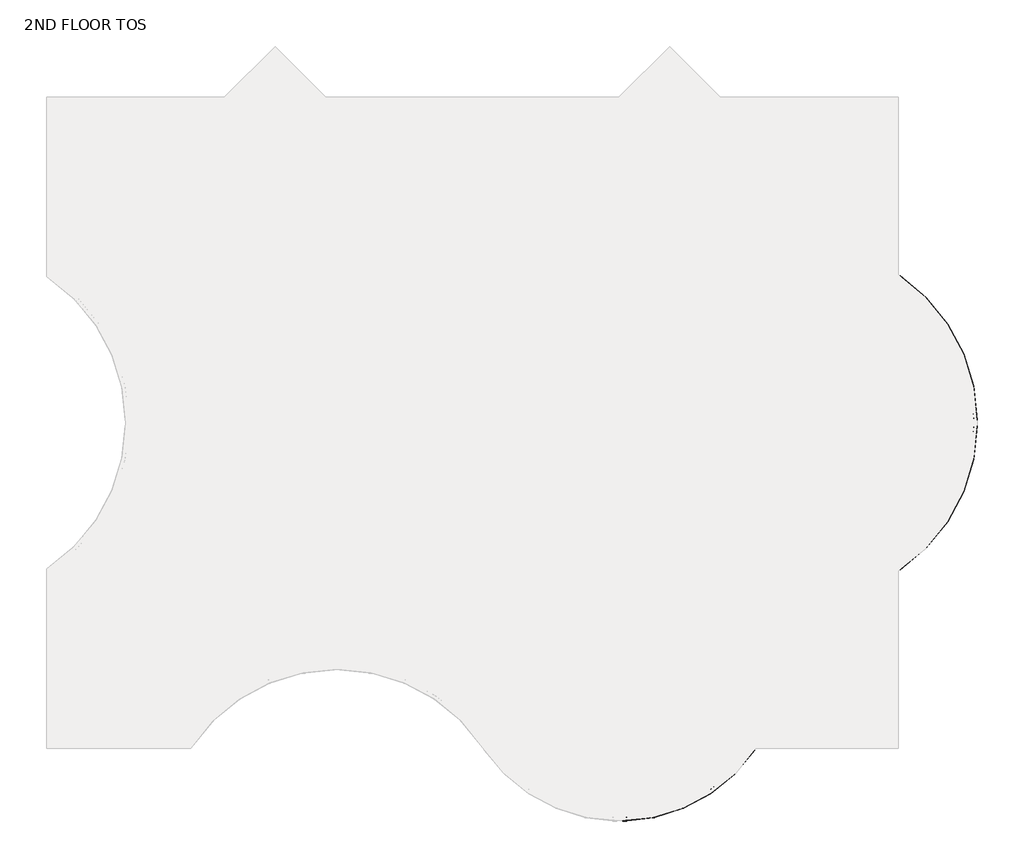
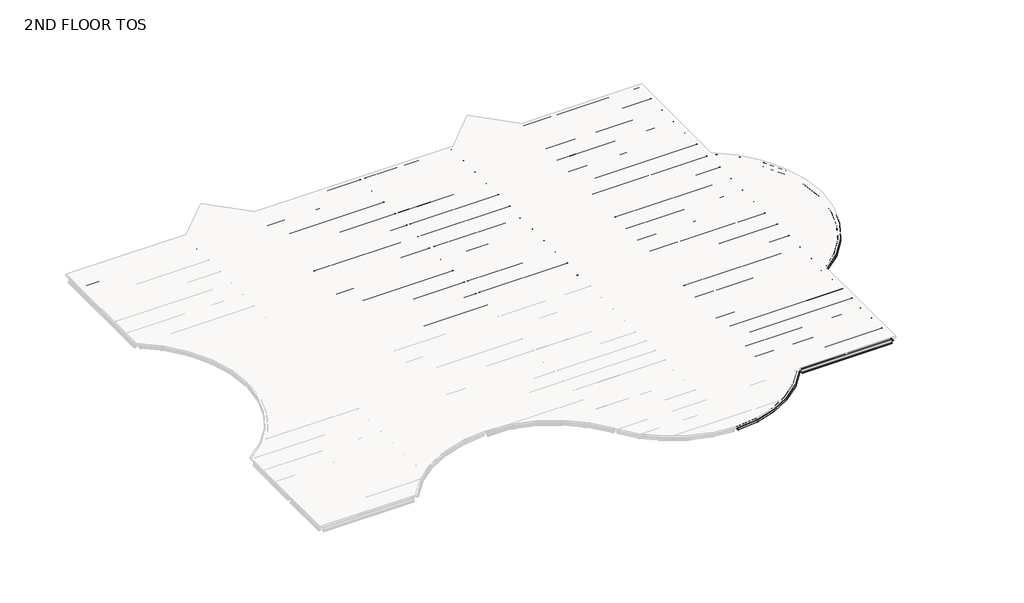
# One storey, part 2 of 2: 110 beams.
"""IFC4 building model written with IfcOpenShell, lengths in millimetres."""

from ifc_helpers import new_model, si_unit, origin, place, context, project, spatial, transform, mapped, element, save
from components import m_hss_square_hss203_2x203_2x9_5_28e91a4e, m_hss_square_hss203_2x203_2x9_5_f31329aa, m_hss_square_hss203_2x203_2x9_5_63507dff, ub_universal_beams_ub254x102x28_7812688d, ub_universal_beams_ub254x102x28_4a38c177, ub_universal_beams_ub305x165x40_c4d0385b, ub_universal_beams_ub305x165x40_19965e16, ub_universal_beams_ub305x165x40_d3abc31d, ub_universal_beams_ub305x165x40_0c73730f, ub_universal_beams_ub305x165x40_2a963f0c, ub_universal_beams_ub305x165x40_9ce7f2ee, ub_universal_beams_ub305x165x40_d184adfd, ub_universal_beams_ub305x165x40_bc7dc938, ub_universal_beams_ub305x165x40_b4233d25, ub_universal_beams_ub356x171x51_c708c058, ub_universal_beams_ub356x171x51_ef72dcdd, ub_universal_beams_ub356x171x51_10b3c54f, ub_universal_beams_ub356x171x51_4c9fd821, ub_universal_beams_ub356x171x51_d1a87c3c, ub_universal_beams_ub356x171x51_fa75724b, ub_universal_beams_ub356x171x51_68db896e, ub_universal_beams_ub356x171x51_c634c4a6, ub_universal_beams_ub356x171x51_995f1560, ub_universal_beams_ub356x171x51_dfc36663, ub_universal_beams_ub356x171x51_11d6b780, ub_universal_beams_ub356x171x51_76b2d20b, ub_universal_beams_ub356x171x51_145ecd4b, ub_universal_beams_ub356x171x51_c7dff8d2, ub_universal_beams_ub356x171x51_8a345439, ub_universal_beams_ub356x171x51_6da510e9, ub_universal_beams_ub356x171x51_e97f8d2e, ub_universal_beams_ub356x171x51_a38b99de, ub_universal_beams_ub356x171x51_d8f4cdde, ub_universal_beams_ub356x171x51_475301e6, ub_universal_beams_ub356x171x51_c03c70fb, ub_universal_beams_ub356x171x51_741bae58

model = new_model("IFC4")

# Units and contexts
model_context = context("Model", 3, world=origin())
ifc_project = project(units=[si_unit("LENGTHUNIT", "METRE", prefix="MILLI")], contexts=[model_context])

# Site, building, storey
site = spatial("IfcSite", under=ifc_project)
building = spatial("IfcBuilding", under=site)
storey = spatial("IfcBuildingStorey", under=building, Name="2ND FLOOR TOS", Elevation=8991.6)

# Beams
placement = place(None, origin())
m_hss_square_hss203_2x203_2x9_5_shape = m_hss_square_hss203_2x203_2x9_5_28e91a4e(model_context)
element("IfcBeam", 1, ObjectType="M_HSS Square : HSS203.2X203.2X9.5", at=placement, inside=storey, context=model_context, shape_type="MappedRepresentation", body=[
    mapped(m_hss_square_hss203_2x203_2x9_5_shape, transform((44027.575, 24539.575, 8890.1), x_axis=(0.8332810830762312, -0.5528495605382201, 0.0), y_axis=(0.5528495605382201, 0.8332810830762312, 0.0), z_axis=(0.0, 0.0, 1.0))),
])
m_hss_square_hss203_2x203_2x9_5_2_shape = m_hss_square_hss203_2x203_2x9_5_f31329aa(model_context)
element("IfcBeam", 2, ObjectType="M_HSS Square : HSS203.2X203.2X9.5", at=placement, inside=storey, context=model_context, shape_type="MappedRepresentation", body=[
    mapped(m_hss_square_hss203_2x203_2x9_5_2_shape, transform((44027.575, 9299.575, 8890.1), x_axis=(0.8332810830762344, 0.5528495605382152, 0.0), y_axis=(-0.5528495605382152, 0.8332810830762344, 0.0), z_axis=(0.0, 0.0, 1.0))),
])
m_hss_square_hss203_2x203_2x9_5_3_shape = m_hss_square_hss203_2x203_2x9_5_63507dff(model_context)
element("IfcBeam", 3, ObjectType="M_HSS Square : HSS203.2X203.2X9.5", at=placement, inside=storey, context=model_context, shape_type="MappedRepresentation", body=[
    mapped(m_hss_square_hss203_2x203_2x9_5_3_shape, transform((36716.575, 155.575, 8890.1), x_axis=(-0.5530174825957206, -0.8331696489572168, 0.0), y_axis=(0.8331696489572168, -0.5530174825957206, 0.0), z_axis=(0.0, 0.0, 1.0))),
])
ub_universal_beams_ub254x102x28_shape = ub_universal_beams_ub254x102x28_7812688d(model_context)
element("IfcBeam", 4, ObjectType="UB-Universal Beams : UB254x102x28", at=placement, inside=storey, context=model_context, shape_type="MappedRepresentation", body=[
    mapped(ub_universal_beams_ub254x102x28_shape, transform((10592.575, 34976.575, 8861.4), x_axis=(0.7071067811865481, 0.7071067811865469, 0.0), y_axis=(-0.7071067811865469, 0.7071067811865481, 0.0), z_axis=(0.0, 0.0, 1.0))),
])
element("IfcBeam", 5, ObjectType="UB-Universal Beams : UB254x102x28", at=placement, inside=storey, context=model_context, shape_type="MappedRepresentation", body=[
    mapped(ub_universal_beams_ub254x102x28_shape, transform((31004.575, 34976.575, 8861.4), x_axis=(0.7071067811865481, 0.7071067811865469, 0.0), y_axis=(-0.7071067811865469, 0.7071067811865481, 0.0), z_axis=(0.0, 0.0, 1.0))),
])
ub_universal_beams_ub254x102x28_2_shape = ub_universal_beams_ub254x102x28_4a38c177(model_context)
element("IfcBeam", 6, ObjectType="UB-Universal Beams : UB254x102x28", at=placement, inside=storey, context=model_context, shape_type="MappedRepresentation", body=[
    mapped(ub_universal_beams_ub254x102x28_2_shape, transform((13178.575, 34976.575, 8861.4), x_axis=(0.707106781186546, -0.707106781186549, 0.0), y_axis=(0.707106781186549, 0.707106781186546, 0.0), z_axis=(0.0, 0.0, 1.0))),
])
element("IfcBeam", 7, ObjectType="UB-Universal Beams : UB254x102x28", at=placement, inside=storey, context=model_context, shape_type="MappedRepresentation", body=[
    mapped(ub_universal_beams_ub254x102x28_2_shape, transform((33590.575, 34976.575, 8861.4), x_axis=(0.7071067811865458, -0.7071067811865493, 0.0), y_axis=(0.7071067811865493, 0.7071067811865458, 0.0), z_axis=(0.0, 0.0, 1.0))),
])
ub_universal_beams_ub305x165x40_shape = ub_universal_beams_ub305x165x40_c4d0385b(model_context)
element("IfcBeam", 8, ObjectType="UB-Universal Beams : UB305x165x40", at=placement, inside=storey, context=model_context, shape_type="MappedRepresentation", body=[
    mapped(ub_universal_beams_ub305x165x40_shape, transform((4727.575, 32159.575, 8839.9), x_axis=(1.0, 0.0, 0.0), y_axis=(0.0, 1.0, 0.0), z_axis=(0.0, 0.0, 1.0))),
])
element("IfcBeam", 9, ObjectType="UB-Universal Beams : UB305x165x40", at=placement, inside=storey, context=model_context, shape_type="MappedRepresentation", body=[
    mapped(ub_universal_beams_ub305x165x40_shape, transform((39455.575, 32159.575, 8839.9), x_axis=(1.0, 0.0, 0.0), y_axis=(0.0, 1.0, 0.0), z_axis=(0.0, 0.0, 1.0))),
])
element("IfcBeam", 10, ObjectType="UB-Universal Beams : UB305x165x40", at=placement, inside=storey, context=model_context, shape_type="MappedRepresentation", body=[
    mapped(ub_universal_beams_ub305x165x40_shape, transform((39455.575, 30635.575, 8839.9), x_axis=(1.0, 0.0, 0.0), y_axis=(0.0, 1.0, 0.0), z_axis=(0.0, 0.0, 1.0))),
])
element("IfcBeam", 11, ObjectType="UB-Universal Beams : UB305x165x40", at=placement, inside=storey, context=model_context, shape_type="MappedRepresentation", body=[
    mapped(ub_universal_beams_ub305x165x40_shape, transform((39455.575, 29111.575, 8839.9), x_axis=(1.0, 0.0, 0.0), y_axis=(0.0, 1.0, 0.0), z_axis=(0.0, 0.0, 1.0))),
])
element("IfcBeam", 12, ObjectType="UB-Universal Beams : UB305x165x40", at=placement, inside=storey, context=model_context, shape_type="MappedRepresentation", body=[
    mapped(ub_universal_beams_ub305x165x40_shape, transform((39455.575, 27587.575, 8839.9), x_axis=(1.0, 0.0, 0.0), y_axis=(0.0, 1.0, 0.0), z_axis=(0.0, 0.0, 1.0))),
])
element("IfcBeam", 13, ObjectType="UB-Universal Beams : UB305x165x40", at=placement, inside=storey, context=model_context, shape_type="MappedRepresentation", body=[
    mapped(ub_universal_beams_ub305x165x40_shape, transform((39455.575, 26063.575, 8839.9), x_axis=(1.0, 0.0, 0.0), y_axis=(0.0, 1.0, 0.0), z_axis=(0.0, 0.0, 1.0))),
])
element("IfcBeam", 14, ObjectType="UB-Universal Beams : UB305x165x40", at=placement, inside=storey, context=model_context, shape_type="MappedRepresentation", body=[
    mapped(ub_universal_beams_ub305x165x40_shape, transform((39455.575, 23015.575, 8839.9), x_axis=(1.0, 0.0, 0.0), y_axis=(0.0, 1.0, 0.0), z_axis=(0.0, 0.0, 1.0))),
])
element("IfcBeam", 15, ObjectType="UB-Universal Beams : UB305x165x40", at=placement, inside=storey, context=model_context, shape_type="MappedRepresentation", body=[
    mapped(ub_universal_beams_ub305x165x40_shape, transform((39455.575, 21491.575, 8839.9), x_axis=(1.0, 0.0, 0.0), y_axis=(0.0, 1.0, 0.0), z_axis=(0.0, 0.0, 1.0))),
])
element("IfcBeam", 16, ObjectType="UB-Universal Beams : UB305x165x40", at=placement, inside=storey, context=model_context, shape_type="MappedRepresentation", body=[
    mapped(ub_universal_beams_ub305x165x40_shape, transform((39455.575, 19967.575, 8839.9), x_axis=(1.0, 0.0, 0.0), y_axis=(0.0, 1.0, 0.0), z_axis=(0.0, 0.0, 1.0))),
])
element("IfcBeam", 17, ObjectType="UB-Universal Beams : UB305x165x40", at=placement, inside=storey, context=model_context, shape_type="MappedRepresentation", body=[
    mapped(ub_universal_beams_ub305x165x40_shape, transform((39455.575, 18443.575, 8839.9), x_axis=(1.0, 0.0, 0.0), y_axis=(0.0, 1.0, 0.0), z_axis=(0.0, 0.0, 1.0))),
])
element("IfcBeam", 18, ObjectType="UB-Universal Beams : UB305x165x40", at=placement, inside=storey, context=model_context, shape_type="MappedRepresentation", body=[
    mapped(ub_universal_beams_ub305x165x40_shape, transform((39455.575, 15395.575, 8839.9), x_axis=(1.0, 0.0, 0.0), y_axis=(0.0, 1.0, 0.0), z_axis=(0.0, 0.0, 1.0))),
])
element("IfcBeam", 19, ObjectType="UB-Universal Beams : UB305x165x40", at=placement, inside=storey, context=model_context, shape_type="MappedRepresentation", body=[
    mapped(ub_universal_beams_ub305x165x40_shape, transform((39455.575, 13871.575, 8839.9), x_axis=(1.0, 0.0, 0.0), y_axis=(0.0, 1.0, 0.0), z_axis=(0.0, 0.0, 1.0))),
])
element("IfcBeam", 20, ObjectType="UB-Universal Beams : UB305x165x40", at=placement, inside=storey, context=model_context, shape_type="MappedRepresentation", body=[
    mapped(ub_universal_beams_ub305x165x40_shape, transform((39455.575, 12347.575, 8839.9), x_axis=(1.0, 0.0, 0.0), y_axis=(0.0, 1.0, 0.0), z_axis=(0.0, 0.0, 1.0))),
])
element("IfcBeam", 21, ObjectType="UB-Universal Beams : UB305x165x40", at=placement, inside=storey, context=model_context, shape_type="MappedRepresentation", body=[
    mapped(ub_universal_beams_ub305x165x40_shape, transform((39455.575, 10823.575, 8839.9), x_axis=(1.0, 0.0, 0.0), y_axis=(0.0, 1.0, 0.0), z_axis=(0.0, 0.0, 1.0))),
])
element("IfcBeam", 22, ObjectType="UB-Universal Beams : UB305x165x40", at=placement, inside=storey, context=model_context, shape_type="MappedRepresentation", body=[
    mapped(ub_universal_beams_ub305x165x40_shape, transform((39455.575, 5508.325, 8839.9), x_axis=(-1.0, 0.0, 0.0), y_axis=(0.0, -1.0, 0.0), z_axis=(0.0, 0.0, 1.0))),
])
element("IfcBeam", 23, ObjectType="UB-Universal Beams : UB305x165x40", at=placement, inside=storey, context=model_context, shape_type="MappedRepresentation", body=[
    mapped(ub_universal_beams_ub305x165x40_shape, transform((39455.575, 6772.075, 8839.9), x_axis=(-1.0, 0.0, 0.0), y_axis=(0.0, -1.0, 0.0), z_axis=(0.0, 0.0, 1.0))),
])
element("IfcBeam", 24, ObjectType="UB-Universal Beams : UB305x165x40", at=placement, inside=storey, context=model_context, shape_type="MappedRepresentation", body=[
    mapped(ub_universal_beams_ub305x165x40_shape, transform((39455.575, 8035.825, 8839.9), x_axis=(-1.0, 0.0, 0.0), y_axis=(0.0, -1.0, 0.0), z_axis=(0.0, 0.0, 1.0))),
])
element("IfcBeam", 25, ObjectType="UB-Universal Beams : UB305x165x40", at=placement, inside=storey, context=model_context, shape_type="MappedRepresentation", body=[
    mapped(ub_universal_beams_ub305x165x40_shape, transform((39455.575, 1518.575, 8839.9), x_axis=(-1.0, 0.0, 0.0), y_axis=(0.0, -1.0, 0.0), z_axis=(0.0, 0.0, 1.0))),
])
element("IfcBeam", 26, ObjectType="UB-Universal Beams : UB305x165x40", at=placement, inside=storey, context=model_context, shape_type="MappedRepresentation", body=[
    mapped(ub_universal_beams_ub305x165x40_shape, transform((39455.575, 2881.575, 8839.9), x_axis=(-1.0, 0.0, 0.0), y_axis=(0.0, -1.0, 0.0), z_axis=(0.0, 0.0, 1.0))),
])
ub_universal_beams_ub305x165x40_2_shape = ub_universal_beams_ub305x165x40_19965e16(model_context)
element("IfcBeam", 27, ObjectType="UB-Universal Beams : UB305x165x40", at=placement, inside=storey, context=model_context, shape_type="MappedRepresentation", body=[
    mapped(ub_universal_beams_ub305x165x40_2_shape, transform((11885.575, 34803.325, 8839.9), x_axis=(1.0, 0.0, 0.0), y_axis=(0.0, 1.0, 0.0), z_axis=(0.0, 0.0, 1.0))),
])
element("IfcBeam", 28, ObjectType="UB-Universal Beams : UB305x165x40", at=placement, inside=storey, context=model_context, shape_type="MappedRepresentation", body=[
    mapped(ub_universal_beams_ub305x165x40_2_shape, transform((32297.575, 34803.325, 8839.9), x_axis=(1.0, 0.0, 0.0), y_axis=(0.0, 1.0, 0.0), z_axis=(0.0, 0.0, 1.0))),
])
ub_universal_beams_ub305x165x40_3_shape = ub_universal_beams_ub305x165x40_d3abc31d(model_context)
element("IfcBeam", 29, ObjectType="UB-Universal Beams : UB305x165x40", at=placement, inside=storey, context=model_context, shape_type="MappedRepresentation", body=[
    mapped(ub_universal_beams_ub305x165x40_3_shape, transform((11885.575, 33337.075, 8839.9), x_axis=(1.0, 0.0, 0.0), y_axis=(0.0, 1.0, 0.0), z_axis=(0.0, 0.0, 1.0))),
])
element("IfcBeam", 30, ObjectType="UB-Universal Beams : UB305x165x40", at=placement, inside=storey, context=model_context, shape_type="MappedRepresentation", body=[
    mapped(ub_universal_beams_ub305x165x40_3_shape, transform((11885.575, 31870.825, 8839.9), x_axis=(1.0, 0.0, 0.0), y_axis=(0.0, 1.0, 0.0), z_axis=(0.0, 0.0, 1.0))),
])
element("IfcBeam", 31, ObjectType="UB-Universal Beams : UB305x165x40", at=placement, inside=storey, context=model_context, shape_type="MappedRepresentation", body=[
    mapped(ub_universal_beams_ub305x165x40_3_shape, transform((11885.575, 30404.575, 8839.9), x_axis=(1.0, 0.0, 0.0), y_axis=(0.0, 1.0, 0.0), z_axis=(0.0, 0.0, 1.0))),
])
element("IfcBeam", 32, ObjectType="UB-Universal Beams : UB305x165x40", at=placement, inside=storey, context=model_context, shape_type="MappedRepresentation", body=[
    mapped(ub_universal_beams_ub305x165x40_3_shape, transform((32297.575, 33337.075, 8839.9), x_axis=(1.0, 0.0, 0.0), y_axis=(0.0, 1.0, 0.0), z_axis=(0.0, 0.0, 1.0))),
])
element("IfcBeam", 33, ObjectType="UB-Universal Beams : UB305x165x40", at=placement, inside=storey, context=model_context, shape_type="MappedRepresentation", body=[
    mapped(ub_universal_beams_ub305x165x40_3_shape, transform((32297.575, 31870.825, 8839.9), x_axis=(1.0, 0.0, 0.0), y_axis=(0.0, 1.0, 0.0), z_axis=(0.0, 0.0, 1.0))),
])
element("IfcBeam", 34, ObjectType="UB-Universal Beams : UB305x165x40", at=placement, inside=storey, context=model_context, shape_type="MappedRepresentation", body=[
    mapped(ub_universal_beams_ub305x165x40_3_shape, transform((32297.575, 30404.575, 8839.9), x_axis=(1.0, 0.0, 0.0), y_axis=(0.0, 1.0, 0.0), z_axis=(0.0, 0.0, 1.0))),
])
element("IfcBeam", 35, ObjectType="UB-Universal Beams : UB305x165x40", at=placement, inside=storey, context=model_context, shape_type="MappedRepresentation", body=[
    mapped(ub_universal_beams_ub305x165x40_3_shape, transform((32297.575, 28938.325, 8839.9), x_axis=(1.0, 0.0, 0.0), y_axis=(0.0, 1.0, 0.0), z_axis=(0.0, 0.0, 1.0))),
])
element("IfcBeam", 36, ObjectType="UB-Universal Beams : UB305x165x40", at=placement, inside=storey, context=model_context, shape_type="MappedRepresentation", body=[
    mapped(ub_universal_beams_ub305x165x40_3_shape, transform((32297.575, 27472.075, 8839.9), x_axis=(1.0, 0.0, 0.0), y_axis=(0.0, 1.0, 0.0), z_axis=(0.0, 0.0, 1.0))),
])
element("IfcBeam", 37, ObjectType="UB-Universal Beams : UB305x165x40", at=placement, inside=storey, context=model_context, shape_type="MappedRepresentation", body=[
    mapped(ub_universal_beams_ub305x165x40_3_shape, transform((32297.575, 26005.825, 8839.9), x_axis=(1.0, 0.0, 0.0), y_axis=(0.0, 1.0, 0.0), z_axis=(0.0, 0.0, 1.0))),
])
element("IfcBeam", 38, ObjectType="UB-Universal Beams : UB305x165x40", at=placement, inside=storey, context=model_context, shape_type="MappedRepresentation", body=[
    mapped(ub_universal_beams_ub305x165x40_3_shape, transform((32297.575, 1518.575, 8839.9), x_axis=(-1.0, 0.0, 0.0), y_axis=(0.0, -1.0, 0.0), z_axis=(0.0, 0.0, 1.0))),
])
element("IfcBeam", 39, ObjectType="UB-Universal Beams : UB305x165x40", at=placement, inside=storey, context=model_context, shape_type="MappedRepresentation", body=[
    mapped(ub_universal_beams_ub305x165x40_3_shape, transform((32297.575, 2881.575, 8839.9), x_axis=(-1.0, 0.0, 0.0), y_axis=(0.0, -1.0, 0.0), z_axis=(0.0, 0.0, 1.0))),
])
element("IfcBeam", 40, ObjectType="UB-Universal Beams : UB305x165x40", at=placement, inside=storey, context=model_context, shape_type="MappedRepresentation", body=[
    mapped(ub_universal_beams_ub305x165x40_3_shape, transform((32297.575, 5508.325, 8839.9), x_axis=(-1.0, 0.0, 0.0), y_axis=(0.0, -1.0, 0.0), z_axis=(0.0, 0.0, 1.0))),
])
element("IfcBeam", 41, ObjectType="UB-Universal Beams : UB305x165x40", at=placement, inside=storey, context=model_context, shape_type="MappedRepresentation", body=[
    mapped(ub_universal_beams_ub305x165x40_3_shape, transform((32297.575, 6772.075, 8839.9), x_axis=(-1.0, 0.0, 0.0), y_axis=(0.0, -1.0, 0.0), z_axis=(0.0, 0.0, 1.0))),
])
element("IfcBeam", 42, ObjectType="UB-Universal Beams : UB305x165x40", at=placement, inside=storey, context=model_context, shape_type="MappedRepresentation", body=[
    mapped(ub_universal_beams_ub305x165x40_3_shape, transform((32297.575, 8035.825, 8839.9), x_axis=(-1.0, 0.0, 0.0), y_axis=(0.0, -1.0, 0.0), z_axis=(0.0, 0.0, 1.0))),
])
element("IfcBeam", 43, ObjectType="UB-Universal Beams : UB305x165x40", at=placement, inside=storey, context=model_context, shape_type="MappedRepresentation", body=[
    mapped(ub_universal_beams_ub305x165x40_3_shape, transform((32297.575, 15395.575, 8839.9), x_axis=(1.0, 0.0, 0.0), y_axis=(0.0, 1.0, 0.0), z_axis=(0.0, 0.0, 1.0))),
])
element("IfcBeam", 44, ObjectType="UB-Universal Beams : UB305x165x40", at=placement, inside=storey, context=model_context, shape_type="MappedRepresentation", body=[
    mapped(ub_universal_beams_ub305x165x40_3_shape, transform((32297.575, 13871.575, 8839.9), x_axis=(1.0, 0.0, 0.0), y_axis=(0.0, 1.0, 0.0), z_axis=(0.0, 0.0, 1.0))),
])
element("IfcBeam", 45, ObjectType="UB-Universal Beams : UB305x165x40", at=placement, inside=storey, context=model_context, shape_type="MappedRepresentation", body=[
    mapped(ub_universal_beams_ub305x165x40_3_shape, transform((32297.575, 12347.575, 8839.9), x_axis=(1.0, 0.0, 0.0), y_axis=(0.0, 1.0, 0.0), z_axis=(0.0, 0.0, 1.0))),
])
element("IfcBeam", 46, ObjectType="UB-Universal Beams : UB305x165x40", at=placement, inside=storey, context=model_context, shape_type="MappedRepresentation", body=[
    mapped(ub_universal_beams_ub305x165x40_3_shape, transform((32297.575, 10823.575, 8839.9), x_axis=(1.0, 0.0, 0.0), y_axis=(0.0, 1.0, 0.0), z_axis=(0.0, 0.0, 1.0))),
])
element("IfcBeam", 47, ObjectType="UB-Universal Beams : UB305x165x40", at=placement, inside=storey, context=model_context, shape_type="MappedRepresentation", body=[
    mapped(ub_universal_beams_ub305x165x40_3_shape, transform((32297.575, 23015.575, 8839.9), x_axis=(1.0, 0.0, 0.0), y_axis=(0.0, 1.0, 0.0), z_axis=(0.0, 0.0, 1.0))),
])
element("IfcBeam", 48, ObjectType="UB-Universal Beams : UB305x165x40", at=placement, inside=storey, context=model_context, shape_type="MappedRepresentation", body=[
    mapped(ub_universal_beams_ub305x165x40_3_shape, transform((32297.575, 21491.575, 8839.9), x_axis=(1.0, 0.0, 0.0), y_axis=(0.0, 1.0, 0.0), z_axis=(0.0, 0.0, 1.0))),
])
element("IfcBeam", 49, ObjectType="UB-Universal Beams : UB305x165x40", at=placement, inside=storey, context=model_context, shape_type="MappedRepresentation", body=[
    mapped(ub_universal_beams_ub305x165x40_3_shape, transform((32297.575, 19967.575, 8839.9), x_axis=(1.0, 0.0, 0.0), y_axis=(0.0, 1.0, 0.0), z_axis=(0.0, 0.0, 1.0))),
])
element("IfcBeam", 50, ObjectType="UB-Universal Beams : UB305x165x40", at=placement, inside=storey, context=model_context, shape_type="MappedRepresentation", body=[
    mapped(ub_universal_beams_ub305x165x40_3_shape, transform((32297.575, 18443.575, 8839.9), x_axis=(1.0, 0.0, 0.0), y_axis=(0.0, 1.0, 0.0), z_axis=(0.0, 0.0, 1.0))),
])
ub_universal_beams_ub305x165x40_4_shape = ub_universal_beams_ub305x165x40_0c73730f(model_context)
element("IfcBeam", 51, ObjectType="UB-Universal Beams : UB305x165x40", at=placement, inside=storey, context=model_context, shape_type="MappedRepresentation", body=[
    mapped(ub_universal_beams_ub305x165x40_4_shape, transform((18591.075, 32159.575, 8839.9), x_axis=(1.0, 0.0, 0.0), y_axis=(0.0, 1.0, 0.0), z_axis=(0.0, 0.0, 1.0))),
])
element("IfcBeam", 52, ObjectType="UB-Universal Beams : UB305x165x40", at=placement, inside=storey, context=model_context, shape_type="MappedRepresentation", body=[
    mapped(ub_universal_beams_ub305x165x40_4_shape, transform((18591.075, 30635.575, 8839.9), x_axis=(1.0, 0.0, 0.0), y_axis=(0.0, 1.0, 0.0), z_axis=(0.0, 0.0, 1.0))),
])
element("IfcBeam", 53, ObjectType="UB-Universal Beams : UB305x165x40", at=placement, inside=storey, context=model_context, shape_type="MappedRepresentation", body=[
    mapped(ub_universal_beams_ub305x165x40_4_shape, transform((18591.075, 29111.575, 8839.9), x_axis=(1.0, 0.0, 0.0), y_axis=(0.0, 1.0, 0.0), z_axis=(0.0, 0.0, 1.0))),
])
element("IfcBeam", 54, ObjectType="UB-Universal Beams : UB305x165x40", at=placement, inside=storey, context=model_context, shape_type="MappedRepresentation", body=[
    mapped(ub_universal_beams_ub305x165x40_4_shape, transform((18591.075, 27587.575, 8839.9), x_axis=(1.0, 0.0, 0.0), y_axis=(0.0, 1.0, 0.0), z_axis=(0.0, 0.0, 1.0))),
])
element("IfcBeam", 55, ObjectType="UB-Universal Beams : UB305x165x40", at=placement, inside=storey, context=model_context, shape_type="MappedRepresentation", body=[
    mapped(ub_universal_beams_ub305x165x40_4_shape, transform((18591.075, 26063.575, 8839.9), x_axis=(1.0, 0.0, 0.0), y_axis=(0.0, 1.0, 0.0), z_axis=(0.0, 0.0, 1.0))),
])
element("IfcBeam", 56, ObjectType="UB-Universal Beams : UB305x165x40", at=placement, inside=storey, context=model_context, shape_type="MappedRepresentation", body=[
    mapped(ub_universal_beams_ub305x165x40_4_shape, transform((18591.075, 23015.575, 8839.9), x_axis=(1.0, 0.0, 0.0), y_axis=(0.0, 1.0, 0.0), z_axis=(0.0, 0.0, 1.0))),
])
element("IfcBeam", 57, ObjectType="UB-Universal Beams : UB305x165x40", at=placement, inside=storey, context=model_context, shape_type="MappedRepresentation", body=[
    mapped(ub_universal_beams_ub305x165x40_4_shape, transform((18591.075, 21491.575, 8839.9), x_axis=(1.0, 0.0, 0.0), y_axis=(0.0, 1.0, 0.0), z_axis=(0.0, 0.0, 1.0))),
])
element("IfcBeam", 58, ObjectType="UB-Universal Beams : UB305x165x40", at=placement, inside=storey, context=model_context, shape_type="MappedRepresentation", body=[
    mapped(ub_universal_beams_ub305x165x40_4_shape, transform((18591.075, 19967.575, 8839.9), x_axis=(1.0, 0.0, 0.0), y_axis=(0.0, 1.0, 0.0), z_axis=(0.0, 0.0, 1.0))),
])
element("IfcBeam", 59, ObjectType="UB-Universal Beams : UB305x165x40", at=placement, inside=storey, context=model_context, shape_type="MappedRepresentation", body=[
    mapped(ub_universal_beams_ub305x165x40_4_shape, transform((18591.075, 18443.575, 8839.9), x_axis=(1.0, 0.0, 0.0), y_axis=(0.0, 1.0, 0.0), z_axis=(0.0, 0.0, 1.0))),
])
ub_universal_beams_ub305x165x40_5_shape = ub_universal_beams_ub305x165x40_2a963f0c(model_context)
element("IfcBeam", 60, ObjectType="UB-Universal Beams : UB305x165x40", at=placement, inside=storey, context=model_context, shape_type="MappedRepresentation", body=[
    mapped(ub_universal_beams_ub305x165x40_5_shape, transform((26211.075, 32159.575, 8839.9), x_axis=(1.0, 0.0, 0.0), y_axis=(0.0, 1.0, 0.0), z_axis=(0.0, 0.0, 1.0))),
])
element("IfcBeam", 61, ObjectType="UB-Universal Beams : UB305x165x40", at=placement, inside=storey, context=model_context, shape_type="MappedRepresentation", body=[
    mapped(ub_universal_beams_ub305x165x40_5_shape, transform((26211.075, 30635.575, 8839.9), x_axis=(1.0, 0.0, 0.0), y_axis=(0.0, 1.0, 0.0), z_axis=(0.0, 0.0, 1.0))),
])
element("IfcBeam", 62, ObjectType="UB-Universal Beams : UB305x165x40", at=placement, inside=storey, context=model_context, shape_type="MappedRepresentation", body=[
    mapped(ub_universal_beams_ub305x165x40_5_shape, transform((26211.075, 29111.575, 8839.9), x_axis=(1.0, 0.0, 0.0), y_axis=(0.0, 1.0, 0.0), z_axis=(0.0, 0.0, 1.0))),
])
element("IfcBeam", 63, ObjectType="UB-Universal Beams : UB305x165x40", at=placement, inside=storey, context=model_context, shape_type="MappedRepresentation", body=[
    mapped(ub_universal_beams_ub305x165x40_5_shape, transform((26211.075, 27587.575, 8839.9), x_axis=(1.0, 0.0, 0.0), y_axis=(0.0, 1.0, 0.0), z_axis=(0.0, 0.0, 1.0))),
])
element("IfcBeam", 64, ObjectType="UB-Universal Beams : UB305x165x40", at=placement, inside=storey, context=model_context, shape_type="MappedRepresentation", body=[
    mapped(ub_universal_beams_ub305x165x40_5_shape, transform((26211.075, 26063.575, 8839.9), x_axis=(1.0, 0.0, 0.0), y_axis=(0.0, 1.0, 0.0), z_axis=(0.0, 0.0, 1.0))),
])
element("IfcBeam", 65, ObjectType="UB-Universal Beams : UB305x165x40", at=placement, inside=storey, context=model_context, shape_type="MappedRepresentation", body=[
    mapped(ub_universal_beams_ub305x165x40_5_shape, transform((26211.075, 23015.575, 8839.9), x_axis=(1.0, 0.0, 0.0), y_axis=(0.0, 1.0, 0.0), z_axis=(0.0, 0.0, 1.0))),
])
element("IfcBeam", 66, ObjectType="UB-Universal Beams : UB305x165x40", at=placement, inside=storey, context=model_context, shape_type="MappedRepresentation", body=[
    mapped(ub_universal_beams_ub305x165x40_5_shape, transform((26211.075, 21491.575, 8839.9), x_axis=(1.0, 0.0, 0.0), y_axis=(0.0, 1.0, 0.0), z_axis=(0.0, 0.0, 1.0))),
])
element("IfcBeam", 67, ObjectType="UB-Universal Beams : UB305x165x40", at=placement, inside=storey, context=model_context, shape_type="MappedRepresentation", body=[
    mapped(ub_universal_beams_ub305x165x40_5_shape, transform((26211.075, 19967.575, 8839.9), x_axis=(1.0, 0.0, 0.0), y_axis=(0.0, 1.0, 0.0), z_axis=(0.0, 0.0, 1.0))),
])
element("IfcBeam", 68, ObjectType="UB-Universal Beams : UB305x165x40", at=placement, inside=storey, context=model_context, shape_type="MappedRepresentation", body=[
    mapped(ub_universal_beams_ub305x165x40_5_shape, transform((26211.075, 18443.575, 8839.9), x_axis=(1.0, 0.0, 0.0), y_axis=(0.0, 1.0, 0.0), z_axis=(0.0, 0.0, 1.0))),
])
ub_universal_beams_ub305x165x40_6_shape = ub_universal_beams_ub305x165x40_9ce7f2ee(model_context)
element("IfcBeam", 69, ObjectType="UB-Universal Beams : UB305x165x40", at=placement, inside=storey, context=model_context, shape_type="MappedRepresentation", body=[
    mapped(ub_universal_beams_ub305x165x40_6_shape, transform((44907.9405309, 23015.575, 8839.9), x_axis=(1.0, 0.0, 0.0), y_axis=(0.0, 1.0, 0.0), z_axis=(0.0, 0.0, 1.0))),
])
element("IfcBeam", 70, ObjectType="UB-Universal Beams : UB305x165x40", at=placement, inside=storey, context=model_context, shape_type="MappedRepresentation", body=[
    mapped(ub_universal_beams_ub305x165x40_6_shape, transform((44907.9405309, 10823.575, 8839.9), x_axis=(1.0, 0.0, 0.0), y_axis=(0.0, 1.0, 0.0), z_axis=(0.0, 0.0, 1.0))),
])
ub_universal_beams_ub305x165x40_7_shape = ub_universal_beams_ub305x165x40_d184adfd(model_context)
element("IfcBeam", 71, ObjectType="UB-Universal Beams : UB305x165x40", at=placement, inside=storey, context=model_context, shape_type="MappedRepresentation", body=[
    mapped(ub_universal_beams_ub305x165x40_7_shape, transform((45459.5874928, 21491.575, 8839.9), x_axis=(1.0, 0.0, 0.0), y_axis=(0.0, 1.0, 0.0), z_axis=(0.0, 0.0, 1.0))),
])
element("IfcBeam", 72, ObjectType="UB-Universal Beams : UB305x165x40", at=placement, inside=storey, context=model_context, shape_type="MappedRepresentation", body=[
    mapped(ub_universal_beams_ub305x165x40_7_shape, transform((45459.5874928, 12347.575, 8839.9), x_axis=(1.0, 0.0, 0.0), y_axis=(0.0, 1.0, 0.0), z_axis=(0.0, 0.0, 1.0))),
])
ub_universal_beams_ub305x165x40_8_shape = ub_universal_beams_ub305x165x40_bc7dc938(model_context)
element("IfcBeam", 73, ObjectType="UB-Universal Beams : UB305x165x40", at=placement, inside=storey, context=model_context, shape_type="MappedRepresentation", body=[
    mapped(ub_universal_beams_ub305x165x40_8_shape, transform((45810.6153272, 19967.575, 8839.9), x_axis=(1.0, 0.0, 0.0), y_axis=(0.0, 1.0, 0.0), z_axis=(0.0, 0.0, 1.0))),
])
element("IfcBeam", 74, ObjectType="UB-Universal Beams : UB305x165x40", at=placement, inside=storey, context=model_context, shape_type="MappedRepresentation", body=[
    mapped(ub_universal_beams_ub305x165x40_8_shape, transform((45810.6153272, 13871.575, 8839.9), x_axis=(1.0, 0.0, 0.0), y_axis=(0.0, 1.0, 0.0), z_axis=(0.0, 0.0, 1.0))),
])
ub_universal_beams_ub305x165x40_9_shape = ub_universal_beams_ub305x165x40_b4233d25(model_context)
element("IfcBeam", 75, ObjectType="UB-Universal Beams : UB305x165x40", at=placement, inside=storey, context=model_context, shape_type="MappedRepresentation", body=[
    mapped(ub_universal_beams_ub305x165x40_9_shape, transform((46008.1318611, 18443.575, 8839.9), x_axis=(1.0, 0.0, 0.0), y_axis=(0.0, 1.0, 0.0), z_axis=(0.0, 0.0, 1.0))),
])
element("IfcBeam", 76, ObjectType="UB-Universal Beams : UB305x165x40", at=placement, inside=storey, context=model_context, shape_type="MappedRepresentation", body=[
    mapped(ub_universal_beams_ub305x165x40_9_shape, transform((46008.1318611, 15395.575, 8839.9), x_axis=(1.0, 0.0, 0.0), y_axis=(0.0, 1.0, 0.0), z_axis=(0.0, 0.0, 1.0))),
])
ub_universal_beams_ub356x171x51_shape = ub_universal_beams_ub356x171x51_c708c058(model_context)
element("IfcBeam", 77, ObjectType="UB-Universal Beams : UB356x171x51", at=placement, inside=storey, context=model_context, shape_type="MappedRepresentation", body=[
    mapped(ub_universal_beams_ub356x171x51_shape, transform((2200.075, 33683.575, 8814.1), x_axis=(1.0, 0.0, 0.0), y_axis=(0.0, 1.0, 0.0), z_axis=(0.0, 0.0, 1.0))),
])
ub_universal_beams_ub356x171x51_2_shape = ub_universal_beams_ub356x171x51_ef72dcdd(model_context)
element("IfcBeam", 78, ObjectType="UB-Universal Beams : UB356x171x51", at=placement, inside=storey, context=model_context, shape_type="MappedRepresentation", body=[
    mapped(ub_universal_beams_ub356x171x51_2_shape, transform((6772.075, 33683.575, 8814.1), x_axis=(1.0, 0.0, 0.0), y_axis=(0.0, 1.0, 0.0), z_axis=(0.0, 0.0, 1.0))),
])
element("IfcBeam", 79, ObjectType="UB-Universal Beams : UB356x171x51", at=placement, inside=storey, context=model_context, shape_type="MappedRepresentation", body=[
    mapped(ub_universal_beams_ub356x171x51_2_shape, transform((34883.575, 6772.075, 8814.1), x_axis=(0.0, -1.0, 0.0), y_axis=(1.0, 0.0, 0.0), z_axis=(0.0, 0.0, 1.0))),
])
ub_universal_beams_ub356x171x51_3_shape = ub_universal_beams_ub356x171x51_10b3c54f(model_context)
element("IfcBeam", 80, ObjectType="UB-Universal Beams : UB356x171x51", at=placement, inside=storey, context=model_context, shape_type="MappedRepresentation", body=[
    mapped(ub_universal_beams_ub356x171x51_3_shape, transform((18591.075, 33683.575, 8814.1), x_axis=(1.0, 0.0, 0.0), y_axis=(0.0, 1.0, 0.0), z_axis=(0.0, 0.0, 1.0))),
])
ub_universal_beams_ub356x171x51_4_shape = ub_universal_beams_ub356x171x51_4c9fd821(model_context)
element("IfcBeam", 81, ObjectType="UB-Universal Beams : UB356x171x51", at=placement, inside=storey, context=model_context, shape_type="MappedRepresentation", body=[
    mapped(ub_universal_beams_ub356x171x51_4_shape, transform((26211.075, 33683.575, 8814.1), x_axis=(1.0, 0.0, 0.0), y_axis=(0.0, 1.0, 0.0), z_axis=(0.0, 0.0, 1.0))),
])
ub_universal_beams_ub356x171x51_5_shape = ub_universal_beams_ub356x171x51_d1a87c3c(model_context)
element("IfcBeam", 82, ObjectType="UB-Universal Beams : UB356x171x51", at=placement, inside=storey, context=model_context, shape_type="MappedRepresentation", body=[
    mapped(ub_universal_beams_ub356x171x51_5_shape, transform((39455.575, 33683.575, 8814.1), x_axis=(1.0, 0.0, 0.0), y_axis=(0.0, 1.0, 0.0), z_axis=(0.0, 0.0, 1.0))),
])
ub_universal_beams_ub356x171x51_6_shape = ub_universal_beams_ub356x171x51_fa75724b(model_context)
element("IfcBeam", 83, ObjectType="UB-Universal Beams : UB356x171x51", at=placement, inside=storey, context=model_context, shape_type="MappedRepresentation", body=[
    mapped(ub_universal_beams_ub356x171x51_6_shape, transform((44027.575, 29111.575, 8814.1), x_axis=(0.0, -1.0, 0.0), y_axis=(1.0, 0.0, 0.0), z_axis=(0.0, 0.0, 1.0))),
])
ub_universal_beams_ub356x171x51_7_shape = ub_universal_beams_ub356x171x51_68db896e(model_context)
element("IfcBeam", 84, ObjectType="UB-Universal Beams : UB356x171x51", at=placement, inside=storey, context=model_context, shape_type="MappedRepresentation", body=[
    mapped(ub_universal_beams_ub356x171x51_7_shape, transform((44027.575, 6772.075, 8814.1), x_axis=(0.0, -1.0, 0.0), y_axis=(1.0, 0.0, 0.0), z_axis=(0.0, 0.0, 1.0))),
])
ub_universal_beams_ub356x171x51_8_shape = ub_universal_beams_ub356x171x51_c634c4a6(model_context)
element("IfcBeam", 85, ObjectType="UB-Universal Beams : UB356x171x51", at=placement, inside=storey, context=model_context, shape_type="MappedRepresentation", body=[
    mapped(ub_universal_beams_ub356x171x51_8_shape, transform((44027.575, 2200.075, 8814.1), x_axis=(0.0, -1.0, 0.0), y_axis=(1.0, 0.0, 0.0), z_axis=(0.0, 0.0, 1.0))),
])
ub_universal_beams_ub356x171x51_9_shape = ub_universal_beams_ub356x171x51_995f1560(model_context)
element("IfcBeam", 86, ObjectType="UB-Universal Beams : UB356x171x51", at=placement, inside=storey, context=model_context, shape_type="MappedRepresentation", body=[
    mapped(ub_universal_beams_ub356x171x51_9_shape, transform((40372.075, 155.575, 8814.1), x_axis=(-1.0, 0.0, 0.0), y_axis=(0.0, -1.0, 0.0), z_axis=(0.0, 0.0, 1.0))),
])
ub_universal_beams_ub356x171x51_10_shape = ub_universal_beams_ub356x171x51_dfc36663(model_context)
element("IfcBeam", 87, ObjectType="UB-Universal Beams : UB356x171x51", at=placement, inside=storey, context=model_context, shape_type="MappedRepresentation", body=[
    mapped(ub_universal_beams_ub356x171x51_10_shape, transform((46072.075, 16919.575, 8814.1), x_axis=(1.0, 0.0, 0.0), y_axis=(0.0, 1.0, 0.0), z_axis=(0.0, 0.0, 1.0))),
])
ub_universal_beams_ub356x171x51_11_shape = ub_universal_beams_ub356x171x51_11d6b780(model_context)
element("IfcBeam", 88, ObjectType="UB-Universal Beams : UB356x171x51", at=placement, inside=storey, context=model_context, shape_type="MappedRepresentation", body=[
    mapped(ub_universal_beams_ub356x171x51_11_shape, transform((32297.575, 24539.575, 8814.1), x_axis=(1.0, 0.0, 0.0), y_axis=(0.0, 1.0, 0.0), z_axis=(0.0, 0.0, 1.0))),
])
element("IfcBeam", 89, ObjectType="UB-Universal Beams : UB356x171x51", at=placement, inside=storey, context=model_context, shape_type="MappedRepresentation", body=[
    mapped(ub_universal_beams_ub356x171x51_11_shape, transform((32297.575, 9299.575, 8814.1), x_axis=(-1.0, 0.0, 0.0), y_axis=(0.0, -1.0, 0.0), z_axis=(0.0, 0.0, 1.0))),
])
element("IfcBeam", 90, ObjectType="UB-Universal Beams : UB356x171x51", at=placement, inside=storey, context=model_context, shape_type="MappedRepresentation", body=[
    mapped(ub_universal_beams_ub356x171x51_11_shape, transform((32297.575, 16919.575, 8814.1), x_axis=(1.0, 0.0, 0.0), y_axis=(0.0, 1.0, 0.0), z_axis=(0.0, 0.0, 1.0))),
])
element("IfcBeam", 91, ObjectType="UB-Universal Beams : UB356x171x51", at=placement, inside=storey, context=model_context, shape_type="MappedRepresentation", body=[
    mapped(ub_universal_beams_ub356x171x51_11_shape, transform((32297.575, 4244.575, 8814.1), x_axis=(-1.0, 0.0, 0.0), y_axis=(0.0, -1.0, 0.0), z_axis=(0.0, 0.0, 1.0))),
])
ub_universal_beams_ub356x171x51_12_shape = ub_universal_beams_ub356x171x51_76b2d20b(model_context)
element("IfcBeam", 92, ObjectType="UB-Universal Beams : UB356x171x51", at=placement, inside=storey, context=model_context, shape_type="MappedRepresentation", body=[
    mapped(ub_universal_beams_ub356x171x51_12_shape, transform((18591.075, 24539.575, 8814.1), x_axis=(1.0, 0.0, 0.0), y_axis=(0.0, 1.0, 0.0), z_axis=(0.0, 0.0, 1.0))),
])
element("IfcBeam", 93, ObjectType="UB-Universal Beams : UB356x171x51", at=placement, inside=storey, context=model_context, shape_type="MappedRepresentation", body=[
    mapped(ub_universal_beams_ub356x171x51_12_shape, transform((18591.075, 16919.575, 8814.1), x_axis=(1.0, 0.0, 0.0), y_axis=(0.0, 1.0, 0.0), z_axis=(0.0, 0.0, 1.0))),
])
ub_universal_beams_ub356x171x51_13_shape = ub_universal_beams_ub356x171x51_145ecd4b(model_context)
element("IfcBeam", 94, ObjectType="UB-Universal Beams : UB356x171x51", at=placement, inside=storey, context=model_context, shape_type="MappedRepresentation", body=[
    mapped(ub_universal_beams_ub356x171x51_13_shape, transform((26211.075, 24539.575, 8814.1), x_axis=(1.0, 0.0, 0.0), y_axis=(0.0, 1.0, 0.0), z_axis=(0.0, 0.0, 1.0))),
])
element("IfcBeam", 95, ObjectType="UB-Universal Beams : UB356x171x51", at=placement, inside=storey, context=model_context, shape_type="MappedRepresentation", body=[
    mapped(ub_universal_beams_ub356x171x51_13_shape, transform((26211.075, 16919.575, 8814.1), x_axis=(1.0, 0.0, 0.0), y_axis=(0.0, 1.0, 0.0), z_axis=(0.0, 0.0, 1.0))),
])
ub_universal_beams_ub356x171x51_14_shape = ub_universal_beams_ub356x171x51_c7dff8d2(model_context)
element("IfcBeam", 96, ObjectType="UB-Universal Beams : UB356x171x51", at=placement, inside=storey, context=model_context, shape_type="MappedRepresentation", body=[
    mapped(ub_universal_beams_ub356x171x51_14_shape, transform((39455.575, 24539.575, 8814.1), x_axis=(1.0, 0.0, 0.0), y_axis=(0.0, 1.0, 0.0), z_axis=(0.0, 0.0, 1.0))),
])
ub_universal_beams_ub356x171x51_15_shape = ub_universal_beams_ub356x171x51_8a345439(model_context)
element("IfcBeam", 97, ObjectType="UB-Universal Beams : UB356x171x51", at=placement, inside=storey, context=model_context, shape_type="MappedRepresentation", body=[
    mapped(ub_universal_beams_ub356x171x51_15_shape, transform((44027.575, 20729.575, 8814.1), x_axis=(0.0, -1.0, 0.0), y_axis=(1.0, 0.0, 0.0), z_axis=(0.0, 0.0, 1.0))),
])
ub_universal_beams_ub356x171x51_16_shape = ub_universal_beams_ub356x171x51_6da510e9(model_context)
element("IfcBeam", 98, ObjectType="UB-Universal Beams : UB356x171x51", at=placement, inside=storey, context=model_context, shape_type="MappedRepresentation", body=[
    mapped(ub_universal_beams_ub356x171x51_16_shape, transform((44027.575, 13109.575, 8814.1), x_axis=(0.0, -1.0, 0.0), y_axis=(1.0, 0.0, 0.0), z_axis=(0.0, 0.0, 1.0))),
])
ub_universal_beams_ub356x171x51_17_shape = ub_universal_beams_ub356x171x51_e97f8d2e(model_context)
element("IfcBeam", 99, ObjectType="UB-Universal Beams : UB356x171x51", at=placement, inside=storey, context=model_context, shape_type="MappedRepresentation", body=[
    mapped(ub_universal_beams_ub356x171x51_17_shape, transform((39455.575, 9299.575, 8814.1), x_axis=(-1.0, 0.0, 0.0), y_axis=(0.0, -1.0, 0.0), z_axis=(0.0, 0.0, 1.0))),
])
ub_universal_beams_ub356x171x51_18_shape = ub_universal_beams_ub356x171x51_a38b99de(model_context)
element("IfcBeam", 100, ObjectType="UB-Universal Beams : UB356x171x51", at=placement, inside=storey, context=model_context, shape_type="MappedRepresentation", body=[
    mapped(ub_universal_beams_ub356x171x51_18_shape, transform((34883.575, 20729.575, 8814.1), x_axis=(0.0, -1.0, 0.0), y_axis=(1.0, 0.0, 0.0), z_axis=(0.0, 0.0, 1.0))),
])
element("IfcBeam", 101, ObjectType="UB-Universal Beams : UB356x171x51", at=placement, inside=storey, context=model_context, shape_type="MappedRepresentation", body=[
    mapped(ub_universal_beams_ub356x171x51_18_shape, transform((34883.575, 13109.575, 8814.1), x_axis=(0.0, -1.0, 0.0), y_axis=(1.0, 0.0, 0.0), z_axis=(0.0, 0.0, 1.0))),
])
element("IfcBeam", 102, ObjectType="UB-Universal Beams : UB356x171x51", at=placement, inside=storey, context=model_context, shape_type="MappedRepresentation", body=[
    mapped(ub_universal_beams_ub356x171x51_18_shape, transform((22710.575, 20729.575, 8814.1), x_axis=(0.0, -1.0, 0.0), y_axis=(1.0, 0.0, 0.0), z_axis=(0.0, 0.0, 1.0))),
])
element("IfcBeam", 103, ObjectType="UB-Universal Beams : UB356x171x51", at=placement, inside=storey, context=model_context, shape_type="MappedRepresentation", body=[
    mapped(ub_universal_beams_ub356x171x51_18_shape, transform((29711.575, 20729.575, 8814.1), x_axis=(0.0, 1.0, 0.0), y_axis=(-1.0, 0.0, 0.0), z_axis=(0.0, 0.0, 1.0))),
])
ub_universal_beams_ub356x171x51_19_shape = ub_universal_beams_ub356x171x51_d8f4cdde(model_context)
element("IfcBeam", 104, ObjectType="UB-Universal Beams : UB356x171x51", at=placement, inside=storey, context=model_context, shape_type="MappedRepresentation", body=[
    mapped(ub_universal_beams_ub356x171x51_19_shape, transform((29711.575, 29111.575, 8814.1), x_axis=(0.0, 1.0, 0.0), y_axis=(-1.0, 0.0, 0.0), z_axis=(0.0, 0.0, 1.0))),
])
ub_universal_beams_ub356x171x51_20_shape = ub_universal_beams_ub356x171x51_475301e6(model_context)
element("IfcBeam", 105, ObjectType="UB-Universal Beams : UB356x171x51", at=placement, inside=storey, context=model_context, shape_type="MappedRepresentation", body=[
    mapped(ub_universal_beams_ub356x171x51_20_shape, transform((39455.575, 16919.575, 8814.1), x_axis=(1.0, 0.0, 0.0), y_axis=(0.0, 1.0, 0.0), z_axis=(0.0, 0.0, 1.0))),
])
element("IfcBeam", 106, ObjectType="UB-Universal Beams : UB356x171x51", at=placement, inside=storey, context=model_context, shape_type="MappedRepresentation", body=[
    mapped(ub_universal_beams_ub356x171x51_20_shape, transform((39455.575, 4244.575, 8814.1), x_axis=(-1.0, 0.0, 0.0), y_axis=(0.0, -1.0, 0.0), z_axis=(0.0, 0.0, 1.0))),
])
ub_universal_beams_ub356x171x51_21_shape = ub_universal_beams_ub356x171x51_c03c70fb(model_context)
element("IfcBeam", 107, ObjectType="UB-Universal Beams : UB356x171x51", at=placement, inside=storey, context=model_context, shape_type="MappedRepresentation", body=[
    mapped(ub_universal_beams_ub356x171x51_21_shape, transform((34883.575, 29111.575, 8814.1), x_axis=(0.0, -1.0, 0.0), y_axis=(1.0, 0.0, 0.0), z_axis=(0.0, 0.0, 1.0))),
])
element("IfcBeam", 108, ObjectType="UB-Universal Beams : UB356x171x51", at=placement, inside=storey, context=model_context, shape_type="MappedRepresentation", body=[
    mapped(ub_universal_beams_ub356x171x51_21_shape, transform((14471.575, 29111.575, 8814.1), x_axis=(0.0, -1.0, 0.0), y_axis=(1.0, 0.0, 0.0), z_axis=(0.0, 0.0, 1.0))),
])
element("IfcBeam", 109, ObjectType="UB-Universal Beams : UB356x171x51", at=placement, inside=storey, context=model_context, shape_type="MappedRepresentation", body=[
    mapped(ub_universal_beams_ub356x171x51_21_shape, transform((22710.575, 29111.575, 8814.1), x_axis=(0.0, -1.0, 0.0), y_axis=(1.0, 0.0, 0.0), z_axis=(0.0, 0.0, 1.0))),
])
ub_universal_beams_ub356x171x51_22_shape = ub_universal_beams_ub356x171x51_741bae58(model_context)
element("IfcBeam", 110, ObjectType="UB-Universal Beams : UB356x171x51", at=placement, inside=storey, context=model_context, shape_type="MappedRepresentation", body=[
    mapped(ub_universal_beams_ub356x171x51_22_shape, transform((34883.575, 2200.075, 8814.1), x_axis=(0.0, -1.0, 0.0), y_axis=(1.0, 0.0, 0.0), z_axis=(0.0, 0.0, 1.0))),
])

save(model, "model.ifc")
